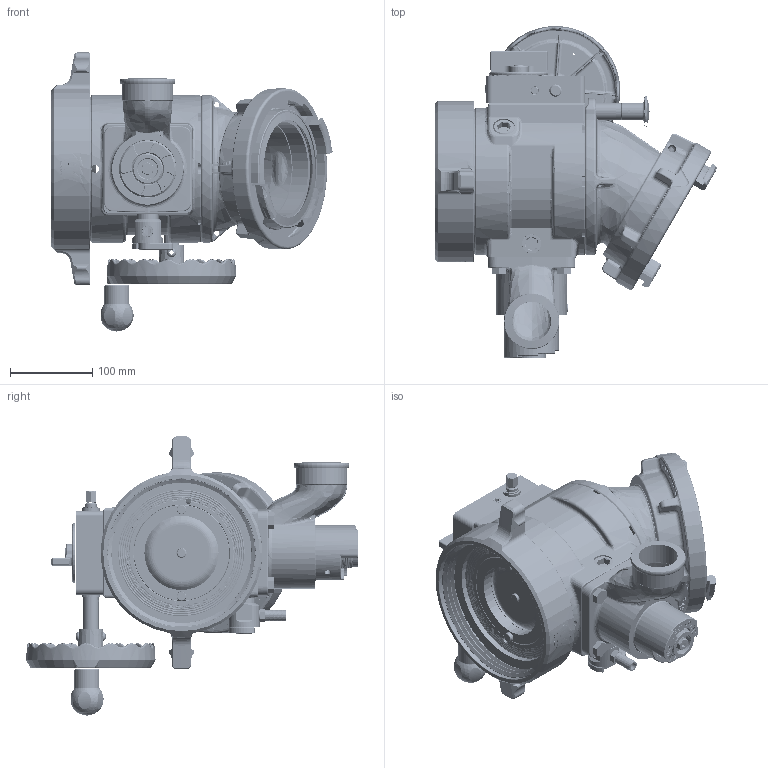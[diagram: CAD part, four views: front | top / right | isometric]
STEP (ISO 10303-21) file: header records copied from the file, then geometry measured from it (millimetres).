
FILE_DESCRIPTION (( 'STEP AP203' ), '1' );
FILE_NAME ('AB1ST-NX.STEP', '2014-06-26T14:15:57', ( '' ), ( '' ), 'SwSTEP 2.0', 'SolidWorks 2014', '' );
FILE_SCHEMA (( 'CONFIG_CONTROL_DESIGN' ));
Products named in the file (1): AB1ST-NX
Bounding box: 342.47 x 404.19 x 339.79 mm (x, y, z)
Surface area: 665214.8 mm2 (no closed solid volume)
Topology: 0 solids, 366 shells, 2747 faces, 18874 edges, 16257 vertices
Faces by surface type: plane 951, bspline 651, cylinder 564, cone 309, torus 224, sphere 48
Entity records: 285687 total; most frequent: CARTESIAN_POINT 161411, ORIENTED_EDGE 23982, DIRECTION 19635, EDGE_CURVE 18844, VERTEX_POINT 16255, LINE 9989, VECTOR 9989, B_SPLINE_CURVE_WITH_KNOTS 5479
